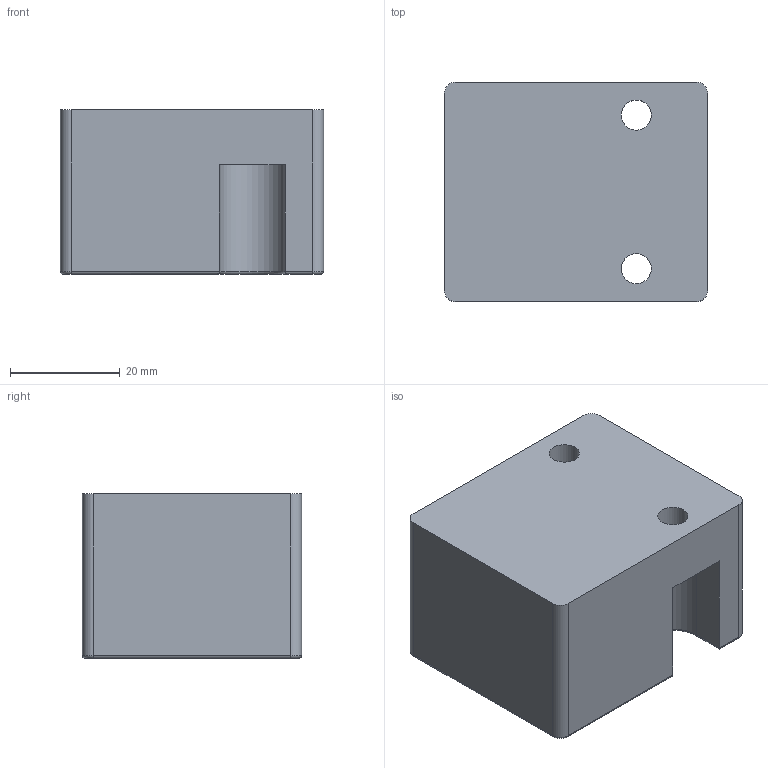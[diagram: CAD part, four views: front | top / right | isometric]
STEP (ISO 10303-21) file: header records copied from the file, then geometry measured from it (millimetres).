
FILE_DESCRIPTION(/* description */ (''),/* implementation_level */ '2;1');
FILE_NAME(/* name */ '851615_B_1-Gehaeuse.stp',/* time_stamp */ '2020-02-06T15:25:09+01:00',/* author */ (''),/* organization */ (''),/* preprocessor_version */ 'ST-DEVELOPER v16',/* originating_system */ 'SIEMENS PLM Software NX 11.0',/* authorisation */ '');
FILE_SCHEMA (('AP203_CONFIGURATION_CONTROLLED_3D_DESIGN_OF_MECHANICAL_PARTS_AND_ASSEMBLIES_MIM_LF { 1 0 10303 403 2 1 2}'));
Length unit declared in the file: millimetre
Products named in the file (1): hi2n4F1007E79v3j
Bounding box: 48 x 40 x 30 mm (x, y, z)
Volume: 51583.5 mm3; surface area: 10038.5 mm2
Topology: 1 solids, 1 shells, 40 faces, 92 edges, 56 vertices
Faces by surface type: cylinder 20, plane 14, torus 6
Full cylindrical faces by diameter (mm): 5.5 x2, 11 x2
Entity records: 1210 total; most frequent: DIRECTION 212, CARTESIAN_POINT 185, ORIENTED_EDGE 176, EDGE_CURVE 88, AXIS2_PLACEMENT_3D 83, VERTEX_POINT 56, EDGE_LOOP 50, LINE 46
